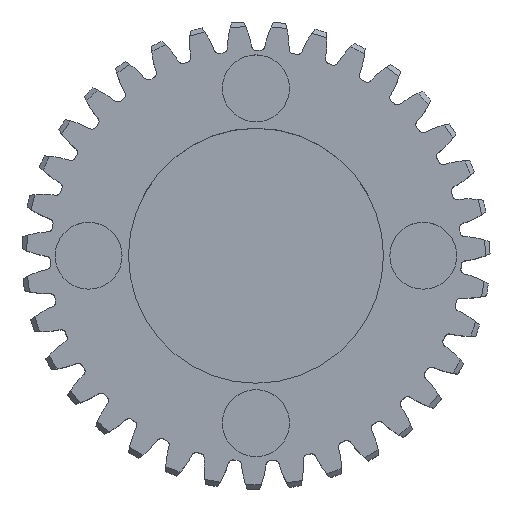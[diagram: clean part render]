
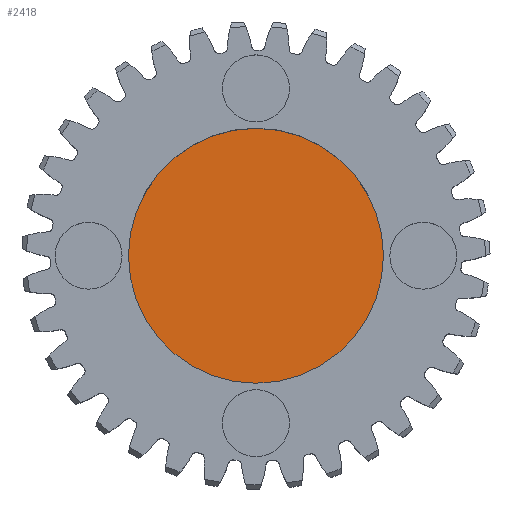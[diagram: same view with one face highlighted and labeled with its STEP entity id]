
A CAD part, top view. The second image highlights one B-rep face of the part: STEP entity #2418.
In plain terms, the highlighted planar face has unit normal (0, 0, 1).
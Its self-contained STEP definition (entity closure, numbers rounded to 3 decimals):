
#490 = CARTESIAN_POINT ( 'NONE',  ( 0., 0., 3. ) ) ;
#609 = DIRECTION ( 'NONE',  ( 0., 0., 1. ) ) ;
#667 = ORIENTED_EDGE ( 'NONE', *, *, #10101, .T. ) ;
#724 = EDGE_LOOP ( 'NONE', ( #4567, #667 ) ) ;
#789 = EDGE_CURVE ( 'NONE', #2556, #11050, #1862, .T. ) ;
#1520 = PLANE ( 'NONE',  #8368 ) ;
#1862 = CIRCLE ( 'NONE', #4453, 8. ) ;
#2057 = CARTESIAN_POINT ( 'NONE',  ( 0., 0., 3. ) ) ;
#2277 = FACE_OUTER_BOUND ( 'NONE', #724, .T. ) ;
#2418 = ADVANCED_FACE ( 'NONE', ( #2277 ), #1520, .T. ) ;
#2556 = VERTEX_POINT ( 'NONE', #10416 ) ;
#3099 = DIRECTION ( 'NONE',  ( 1., 0., 0. ) ) ;
#3514 = CARTESIAN_POINT ( 'NONE',  ( -8., 0., 3. ) ) ;
#3978 = CARTESIAN_POINT ( 'NONE',  ( 0., 0., 3. ) ) ;
#4080 = AXIS2_PLACEMENT_3D ( 'NONE', #2057, #4793, #5811 ) ;
#4453 = AXIS2_PLACEMENT_3D ( 'NONE', #3978, #9360, #3099 ) ;
#4567 = ORIENTED_EDGE ( 'NONE', *, *, #789, .T. ) ;
#4622 = CIRCLE ( 'NONE', #4080, 8. ) ;
#4793 = DIRECTION ( 'NONE',  ( 0., 0., 1. ) ) ;
#5798 = DIRECTION ( 'NONE',  ( 1., 0., 0. ) ) ;
#5811 = DIRECTION ( 'NONE',  ( 1., 0., 0. ) ) ;
#8368 = AXIS2_PLACEMENT_3D ( 'NONE', #490, #609, #5798 ) ;
#9360 = DIRECTION ( 'NONE',  ( 0., 0., 1. ) ) ;
#10101 = EDGE_CURVE ( 'NONE', #11050, #2556, #4622, .T. ) ;
#10416 = CARTESIAN_POINT ( 'NONE',  ( 8., 0., 3. ) ) ;
#11050 = VERTEX_POINT ( 'NONE', #3514 ) ;
